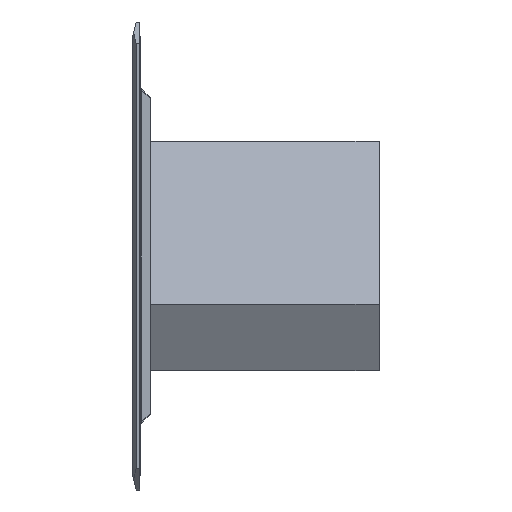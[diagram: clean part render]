
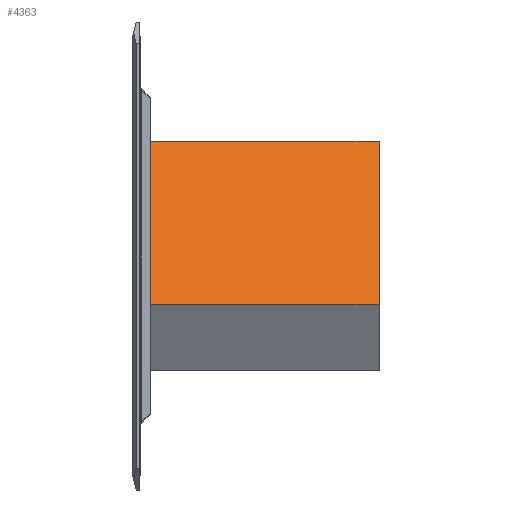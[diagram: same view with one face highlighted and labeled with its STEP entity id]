
A CAD part, left-side view. The second image highlights one B-rep face of the part: STEP entity #4363.
In plain terms, the highlighted planar face has unit normal (-0.866, 0, 0.5) as drawn and (1, 0, 0) by its records, which use the part's own axes.
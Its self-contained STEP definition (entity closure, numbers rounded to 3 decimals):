
#127 = LINE ( 'NONE', #787, #4879 ) ;
#150 = DIRECTION ( 'NONE',  ( -1., 0., 0. ) ) ;
#514 = AXIS2_PLACEMENT_3D ( 'NONE', #4441, #150, #2366 ) ;
#787 = CARTESIAN_POINT ( 'NONE',  ( 52., 342.5, -311.77 ) ) ;
#870 = DIRECTION ( 'NONE',  ( 0., -1., 0. ) ) ;
#1229 = DIRECTION ( 'NONE',  ( 0., 0., -1. ) ) ;
#1235 = LINE ( 'NONE', #8232, #6706 ) ;
#1287 = CARTESIAN_POINT ( 'NONE',  ( 52., 342.5, -311.77 ) ) ;
#1309 = ORIENTED_EDGE ( 'NONE', *, *, #8867, .T. ) ;
#1643 = LINE ( 'NONE', #7988, #1702 ) ;
#1702 = VECTOR ( 'NONE', #8119, 1000. ) ;
#1763 = DIRECTION ( 'NONE',  ( 0., 0., -1. ) ) ;
#1775 = EDGE_LOOP ( 'NONE', ( #6904, #2808, #7037, #1309 ) ) ;
#1820 = EDGE_CURVE ( 'NONE', #2133, #2909, #127, .T. ) ;
#2133 = VERTEX_POINT ( 'NONE', #1287 ) ;
#2366 = DIRECTION ( 'NONE',  ( 0., 0., 1. ) ) ;
#2808 = ORIENTED_EDGE ( 'NONE', *, *, #1820, .F. ) ;
#2909 = VERTEX_POINT ( 'NONE', #4610 ) ;
#3843 = EDGE_CURVE ( 'NONE', #6003, #2133, #8684, .T. ) ;
#4363 = ADVANCED_FACE ( 'NONE', ( #8829 ), #6639, .F. ) ;
#4427 = CARTESIAN_POINT ( 'NONE',  ( 52., 342.5, 251.726 ) ) ;
#4441 = CARTESIAN_POINT ( 'NONE',  ( 52., 342.5, -311.77 ) ) ;
#4610 = CARTESIAN_POINT ( 'NONE',  ( 52., -342.5, -311.77 ) ) ;
#4879 = VECTOR ( 'NONE', #870, 1000. ) ;
#5948 = CARTESIAN_POINT ( 'NONE',  ( 52., -342.5, 251.726 ) ) ;
#6003 = VERTEX_POINT ( 'NONE', #4427 ) ;
#6018 = VERTEX_POINT ( 'NONE', #5948 ) ;
#6639 = PLANE ( 'NONE',  #514 ) ;
#6706 = VECTOR ( 'NONE', #1763, 1000. ) ;
#6904 = ORIENTED_EDGE ( 'NONE', *, *, #8722, .T. ) ;
#7037 = ORIENTED_EDGE ( 'NONE', *, *, #3843, .F. ) ;
#7933 = CARTESIAN_POINT ( 'NONE',  ( 52., 342.5, -311.77 ) ) ;
#7988 = CARTESIAN_POINT ( 'NONE',  ( 52., 342.5, 251.726 ) ) ;
#8119 = DIRECTION ( 'NONE',  ( 0., -1., 0. ) ) ;
#8232 = CARTESIAN_POINT ( 'NONE',  ( 52., -342.5, -311.77 ) ) ;
#8684 = LINE ( 'NONE', #7933, #8910 ) ;
#8722 = EDGE_CURVE ( 'NONE', #6018, #2909, #1235, .T. ) ;
#8829 = FACE_OUTER_BOUND ( 'NONE', #1775, .T. ) ;
#8867 = EDGE_CURVE ( 'NONE', #6003, #6018, #1643, .T. ) ;
#8910 = VECTOR ( 'NONE', #1229, 1000. ) ;
